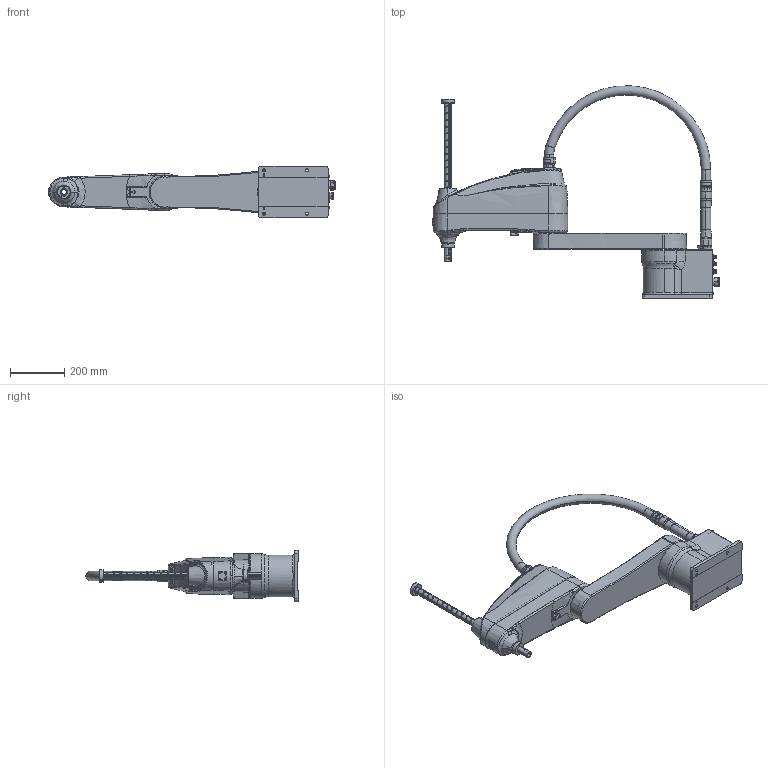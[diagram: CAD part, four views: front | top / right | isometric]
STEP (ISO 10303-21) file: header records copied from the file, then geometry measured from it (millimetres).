
FILE_DESCRIPTION (( 'STEP AP203' ), '1' );
FILE_NAME ('KLS800諦蚚沓喃唳.STEP', '2022-12-20T11:17:58', ( '' ), ( '' ), 'SwSTEP 2.0', 'SolidWorks 2020', '' );
FILE_SCHEMA (( 'CONFIG_CONTROL_DESIGN' ));
Length unit declared in the file: millimetre
Products named in the file (5): KLS800諦蚚沓喃唳; KLS800佪裝郪璃; LQBT-9010-0201-013 大臂（加工烤漆）1; KLS800苤旋郪璃; KLS800珨粣郪璃
Assembly tree (4 placements, depth 2):
  KLS800諦蚚沓喃唳
    KLS800珨粣郪璃
    LQBT-9010-0201-013 大臂（加工烤漆）1
    KLS800苤旋郪璃
    KLS800佪裝郪璃
Bounding box: 1060.2 x 785.33 x 190 mm (x, y, z)
Volume: 21561412.3 mm3; surface area: 1419837.6 mm2
Topology: 36 solids, 42 shells, 4072 faces, 11074 edges, 7186 vertices
Faces by surface type: plane 2599, cylinder 938, cone 223, bspline 170, torus 112, sphere 30
Entity records: 169513 total; most frequent: CARTESIAN_POINT 68372, ORIENTED_EDGE 21958, DIRECTION 19479, EDGE_CURVE 10979, VECTOR 7889, LINE 7889, VERTEX_POINT 7156, AXIS2_PLACEMENT_3D 5795
